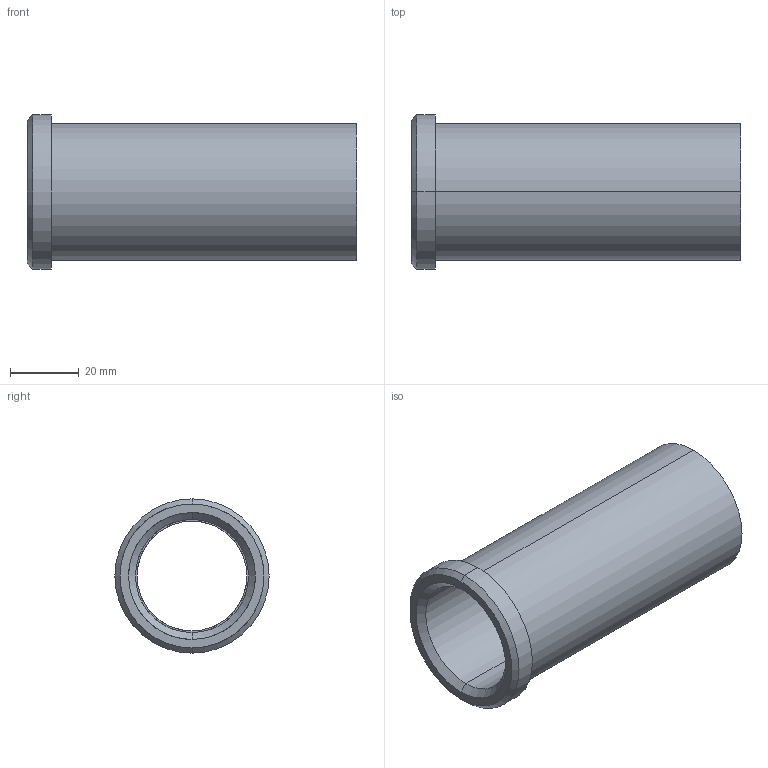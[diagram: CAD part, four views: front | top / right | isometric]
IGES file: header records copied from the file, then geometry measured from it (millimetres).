
Start section: START RECORD GO HERE.
Global section: file name: 353-32X96.igs; native system: DASSAULT SYSTEMES CATIA V5 R20 - www.3ds.com; preprocessor: CATIA Version 5 Release 20 ; author: Utente; organization: NB04-ASUS; date: 20210512.205259; units: millimetre
Bounding box: 96 x 45 x 45 mm (x, y, z)
Surface area: 23169.6 mm2 (no closed solid volume)
Topology: 0 solids, 0 shells, 18 faces, 116 edges, 116 vertices
Faces by surface type: revolution 14, plane 4
